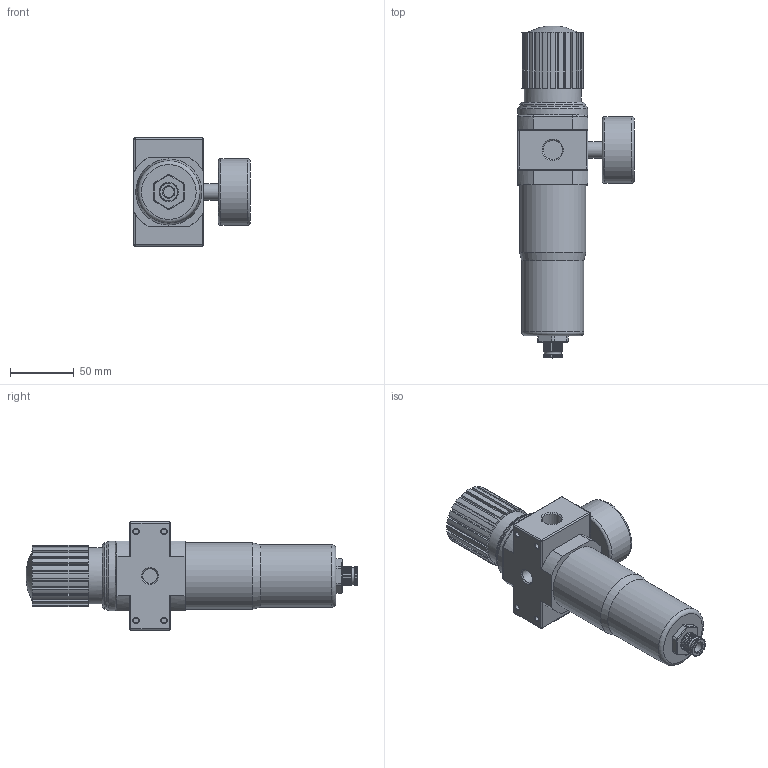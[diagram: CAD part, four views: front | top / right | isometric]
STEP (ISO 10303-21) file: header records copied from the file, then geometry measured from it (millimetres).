
FILE_DESCRIPTION(/* description */ ('STEP AP214'),/* implementation_level */ '2;1');
FILE_NAME(/* name */ '90-FRC-38-xx-05-aa.stp',/* time_stamp */ '2026-01-20T14:32:42+01:00',/* author */ ('Tschernatsch'),/* organization */ ('CADENAS'),/* preprocessor_version */ 'ST-DEVELOPER v20',/* originating_system */ 'Autodesk Inventor 2024',/* authorisation */ ' ');
FILE_SCHEMA (('AUTOMOTIVE_DESIGN { 1 0 10303 214 3 1 1 }'));
Length unit declared in the file: millimetre
Products named in the file (1): LFR-G3/8-MIDI-A_
Bounding box: 91.5 x 261.01 x 85 mm (x, y, z)
Volume: 622286.4 mm3; surface area: 66796.9 mm2
Topology: 1 solids, 2 shells, 391 faces, 1063 edges, 683 vertices
Faces by surface type: plane 197, cylinder 160, torus 14, cone 11, sphere 8, bspline 1
Full cylindrical faces by diameter (mm): 4.134 x4, 8.566 x1, 11.445 x2, 13.157 x1, 14.95 x2, 44.6 x1, 49 x1, 52 x2, 52.5 x1, 55 x1
Entity records: 12785 total; most frequent: CARTESIAN_POINT 2747, DIRECTION 2137, ORIENTED_EDGE 2108, EDGE_CURVE 1054, AXIS2_PLACEMENT_3D 788, VERTEX_POINT 683, LINE 561, VECTOR 561
